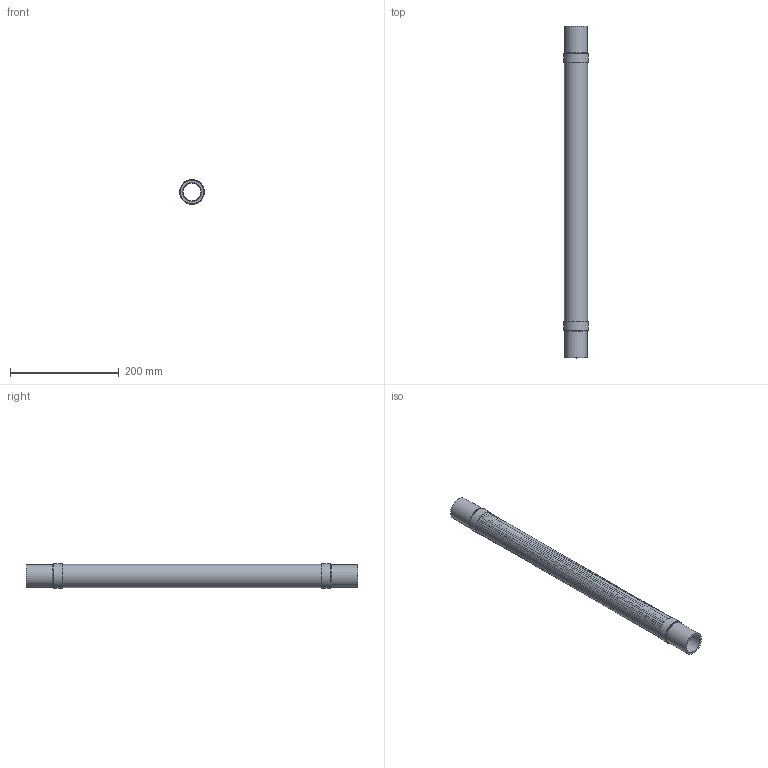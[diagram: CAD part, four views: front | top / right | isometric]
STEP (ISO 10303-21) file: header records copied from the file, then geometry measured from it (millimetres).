
FILE_DESCRIPTION((''),'2;1');
FILE_NAME('C:\2012_Work\Designs\MN\MN-1.25x24.stp','2013-08-09T17:15:31',('KShiels'),(''),'Autodesk Inventor 2012','Autodesk Inventor 2012','');
FILE_SCHEMA(('AUTOMOTIVE_DESIGN { 1 0 10303 214 1 1 1 1 }'));
Length unit declared in the file: inch
Products named in the file (6): MN-1; MN-1_Welds; A-30097-5-1; A-30097-5_1
Assembly tree (7 placements, depth 2):
  MN-1
    MN-1_Welds
    A-30097-5-1
    A-30097-5_1
    A-30097-5_1  x2
    A-30097-5_1  x2
Bounding box: 45.15 x 609.6 x 45.15 mm (x, y, z)
Volume: 119430 mm3; surface area: 496224 mm2
Topology: 8 solids, 8 shells, 926 faces, 1400 edges, 936 vertices
Faces by surface type: plane 462, torus 450, cylinder 12, bspline 2
Full cylindrical faces by diameter (mm): 35.052 x2, 42.164 x5, 42.774 x3, 45.155 x2
Entity records: 19046 total; most frequent: DIRECTION 3686, CARTESIAN_POINT 3205, ORIENTED_EDGE 1848, AXIS2_PLACEMENT_3D 1843, EDGE_LOOP 1834, EDGE_CURVE 924, VERTEX_POINT 922, FACE_OUTER_BOUND 918
